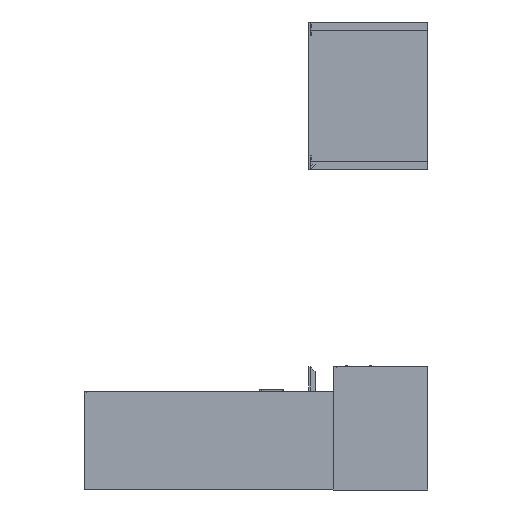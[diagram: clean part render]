
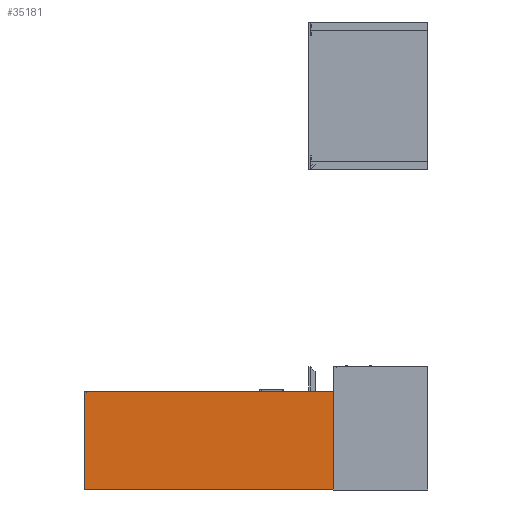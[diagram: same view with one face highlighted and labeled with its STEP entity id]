
A CAD part, left-side view. The second image highlights one B-rep face of the part: STEP entity #35181.
In plain terms, the highlighted planar face has unit normal (-1, 0, 0).
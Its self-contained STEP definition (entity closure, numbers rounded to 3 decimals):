
#6989=FACE_OUTER_BOUND('',#8886,.T.);
#8886=EDGE_LOOP('',(#31363,#31364,#31365,#31366));
#12040=LINE('',#62631,#15334);
#12044=LINE('',#62638,#15338);
#12047=LINE('',#62645,#15341);
#12049=LINE('',#62648,#15343);
#15334=VECTOR('',#47488,0.394);
#15338=VECTOR('',#47494,0.394);
#15341=VECTOR('',#47501,0.394);
#15343=VECTOR('',#47505,0.394);
#18324=VERTEX_POINT('',#62628);
#18325=VERTEX_POINT('',#62630);
#18327=VERTEX_POINT('',#62636);
#18329=VERTEX_POINT('',#62644);
#22714=EDGE_CURVE('',#18324,#18325,#12040,.T.);
#22718=EDGE_CURVE('',#18327,#18324,#12044,.T.);
#22721=EDGE_CURVE('',#18325,#18329,#12047,.T.);
#22723=EDGE_CURVE('',#18329,#18327,#12049,.T.);
#31363=ORIENTED_EDGE('',*,*,#22723,.F.);
#31364=ORIENTED_EDGE('',*,*,#22721,.F.);
#31365=ORIENTED_EDGE('',*,*,#22714,.F.);
#31366=ORIENTED_EDGE('',*,*,#22718,.F.);
#33376=PLANE('',#38837);
#35181=ADVANCED_FACE('',(#6989),#33376,.F.);
#38837=AXIS2_PLACEMENT_3D('',#62649,#47506,#47507);
#47488=DIRECTION('',(0.,-1.,0.));
#47494=DIRECTION('',(0.,0.,1.));
#47501=DIRECTION('',(0.,0.,-1.));
#47505=DIRECTION('',(0.,1.,0.));
#47506=DIRECTION('center_axis',(1.,0.,0.));
#47507=DIRECTION('ref_axis',(0.,0.,-1.));
#62628=CARTESIAN_POINT('',(0.,60.75,0.));
#62630=CARTESIAN_POINT('',(0.,0.,0.));
#62631=CARTESIAN_POINT('',(0.,60.75,0.));
#62636=CARTESIAN_POINT('',(0.,60.75,-24.));
#62638=CARTESIAN_POINT('',(0.,60.75,-24.));
#62644=CARTESIAN_POINT('',(0.,0.,-24.));
#62645=CARTESIAN_POINT('',(0.,0.,0.));
#62648=CARTESIAN_POINT('',(0.,0.,-24.));
#62649=CARTESIAN_POINT('Origin',(0.,30.375,-12.));
